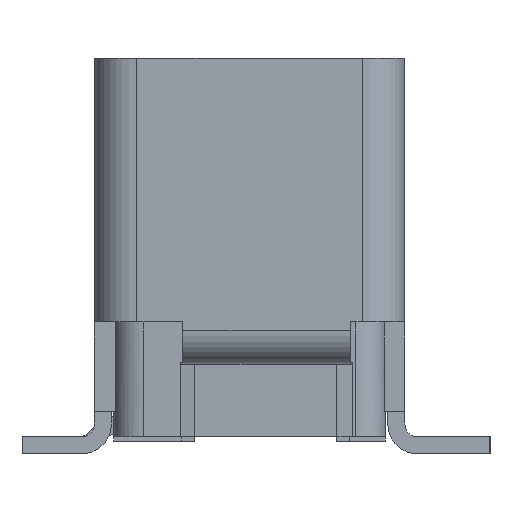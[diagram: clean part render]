
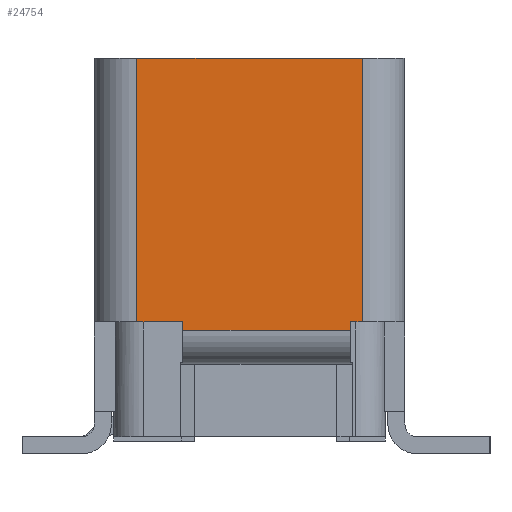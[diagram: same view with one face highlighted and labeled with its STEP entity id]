
A CAD part, left-side view. The second image highlights one B-rep face of the part: STEP entity #24754.
In plain terms, the highlighted planar face has unit normal (-1, 0, 0).
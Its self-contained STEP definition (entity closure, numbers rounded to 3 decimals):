
#403 = DIRECTION ( 'NONE',  ( 0., 0., 1. ) ) ;
#404 = VECTOR ( 'NONE', #403, 1000. ) ;
#405 = CARTESIAN_POINT ( 'NONE',  ( -17.675, 2.15, -0.85 ) ) ;
#406 = LINE ( 'NONE', #405, #404 ) ;
#1363 = CARTESIAN_POINT ( 'NONE',  ( -17.675, 0.04, 2.25 ) ) ;
#1670 = CARTESIAN_POINT ( 'NONE',  ( -17.675, 2.69, 2.25 ) ) ;
#1760 = DIRECTION ( 'NONE',  ( 0., -1., 0. ) ) ;
#1761 = VECTOR ( 'NONE', #1760, 1000. ) ;
#1762 = CARTESIAN_POINT ( 'NONE',  ( -17.675, 3.19, 2.25 ) ) ;
#1763 = LINE ( 'NONE', #1762, #1761 ) ;
#2599 = DIRECTION ( 'NONE',  ( 0., 0., 1. ) ) ;
#2600 = VECTOR ( 'NONE', #2599, 1000. ) ;
#2601 = CARTESIAN_POINT ( 'NONE',  ( -17.675, 0.04, -1.65 ) ) ;
#2602 = LINE ( 'NONE', #2601, #2600 ) ;
#2959 = DIRECTION ( 'NONE',  ( 0., 0., -1. ) ) ;
#2961 = VECTOR ( 'NONE', #2959, 1000. ) ;
#2963 = CARTESIAN_POINT ( 'NONE',  ( -17.675, 2.69, -1.65 ) ) ;
#2964 = LINE ( 'NONE', #2963, #2961 ) ;
#3018 = DIRECTION ( 'NONE',  ( 0., 1., 0. ) ) ;
#3019 = VECTOR ( 'NONE', #3018, 1000. ) ;
#3021 = CARTESIAN_POINT ( 'NONE',  ( -17.675, -3.292, -0.95 ) ) ;
#3022 = LINE ( 'NONE', #3021, #3019 ) ;
#3349 = DIRECTION ( 'NONE',  ( 0., 0., 1. ) ) ;
#3350 = DIRECTION ( 'NONE',  ( -1., 0., 0. ) ) ;
#3352 = AXIS2_PLACEMENT_3D ( 'NONE', #3357, #3350, #3349 ) ;
#3357 = CARTESIAN_POINT ( 'NONE',  ( -17.675, 3.19, -1.65 ) ) ;
#3359 = PLANE ( 'NONE',  #3352 ) ;
#3634 = FACE_OUTER_BOUND ( 'NONE', #24593, .T. ) ;
#10979 = DIRECTION ( 'NONE',  ( 0., 0., -1. ) ) ;
#10981 = VECTOR ( 'NONE', #10979, 1000. ) ;
#10982 = CARTESIAN_POINT ( 'NONE',  ( -17.675, 0.18, -0.85 ) ) ;
#10983 = LINE ( 'NONE', #10982, #10981 ) ;
#11015 = CARTESIAN_POINT ( 'NONE',  ( -17.675, 0.18, -0.95 ) ) ;
#11275 = CARTESIAN_POINT ( 'NONE',  ( -17.675, 2.15, -0.95 ) ) ;
#18150 = CARTESIAN_POINT ( 'NONE',  ( -17.675, 0.18, -0.85 ) ) ;
#18245 = DIRECTION ( 'NONE',  ( 0., 1., 0. ) ) ;
#18246 = VECTOR ( 'NONE', #18245, 1000. ) ;
#18247 = CARTESIAN_POINT ( 'NONE',  ( -17.675, -0.46, -0.85 ) ) ;
#18273 = LINE ( 'NONE', #18247, #18246 ) ;
#18776 = CARTESIAN_POINT ( 'NONE',  ( -17.675, 0.04, -0.85 ) ) ;
#20396 = CARTESIAN_POINT ( 'NONE',  ( -17.675, 2.15, -0.85 ) ) ;
#20487 = CARTESIAN_POINT ( 'NONE',  ( -17.675, 2.69, -0.85 ) ) ;
#20489 = DIRECTION ( 'NONE',  ( 0., 1., 0. ) ) ;
#20490 = VECTOR ( 'NONE', #20489, 1000. ) ;
#20491 = CARTESIAN_POINT ( 'NONE',  ( -17.675, -0.46, -0.85 ) ) ;
#20492 = LINE ( 'NONE', #20491, #20490 ) ;
#21488 = EDGE_CURVE ( 'NONE', #21900, #21490, #18273, .T. ) ;
#21490 = VERTEX_POINT ( 'NONE', #18150 ) ;
#21900 = VERTEX_POINT ( 'NONE', #18776 ) ;
#22883 = EDGE_CURVE ( 'NONE', #22920, #22885, #20492, .T. ) ;
#22885 = VERTEX_POINT ( 'NONE', #20487 ) ;
#22920 = VERTEX_POINT ( 'NONE', #20396 ) ;
#23051 = VERTEX_POINT ( 'NONE', #11275 ) ;
#23085 = VERTEX_POINT ( 'NONE', #11015 ) ;
#23123 = EDGE_CURVE ( 'NONE', #21490, #23085, #10983, .T. ) ;
#23331 = EDGE_CURVE ( 'NONE', #23051, #22920, #406, .T. ) ;
#24030 = VERTEX_POINT ( 'NONE', #1363 ) ;
#24114 = VERTEX_POINT ( 'NONE', #1670 ) ;
#24159 = EDGE_CURVE ( 'NONE', #24114, #24030, #1763, .T. ) ;
#24457 = EDGE_CURVE ( 'NONE', #21900, #24030, #2602, .T. ) ;
#24593 = EDGE_LOOP ( 'NONE', ( #24733, #24734, #24599, #24600, #24601, #24603, #24604, #24605 ) ) ;
#24599 = ORIENTED_EDGE ( 'NONE', *, *, #22883, .F. ) ;
#24600 = ORIENTED_EDGE ( 'NONE', *, *, #23331, .F. ) ;
#24601 = ORIENTED_EDGE ( 'NONE', *, *, #24602, .F. ) ;
#24602 = EDGE_CURVE ( 'NONE', #23085, #23051, #3022, .T. ) ;
#24603 = ORIENTED_EDGE ( 'NONE', *, *, #23123, .F. ) ;
#24604 = ORIENTED_EDGE ( 'NONE', *, *, #21488, .F. ) ;
#24605 = ORIENTED_EDGE ( 'NONE', *, *, #24457, .T. ) ;
#24666 = EDGE_CURVE ( 'NONE', #24114, #22885, #2964, .T. ) ;
#24733 = ORIENTED_EDGE ( 'NONE', *, *, #24159, .F. ) ;
#24734 = ORIENTED_EDGE ( 'NONE', *, *, #24666, .T. ) ;
#24754 = ADVANCED_FACE ( 'NONE', ( #3634 ), #3359, .T. ) ;
